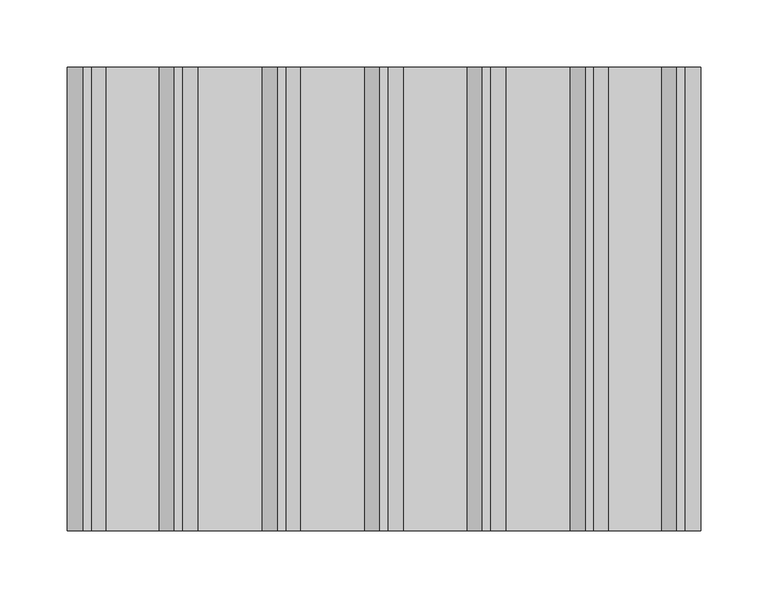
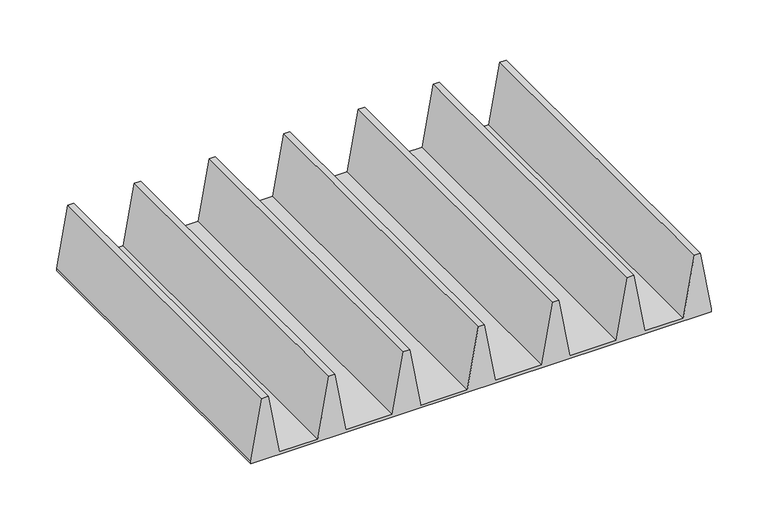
"""IFC4 building model written with IfcOpenShell, lengths in millimetres: furniture geometry."""

from ifc_helpers import new_model, si_unit, frame, origin, place, context, project, spatial, polyline, outline, extrude, source, transform, mapped, element, save


def furniture_a89a9833(model_context):
    return source(origin(), model_context, "Body", "SweptSolid", [
        extrude(outline(polyline([(1012.03252, -234.8826517), (1012.03252, 235.0173483), (1015.0586919, 235.0173483), (1078.70752, 223.7943426), (1078.70752, 217.4443426), (1015.0586919, 206.221337), (1015.0586919, 166.865354), (1078.70752, 155.6423483), (1078.70752, 149.2923483), (1015.0586919, 138.0693426), (1015.0586919, 90.665354), (1078.70752, 79.4423483), (1078.70752, 73.0923483), (1015.0586919, 61.8693426), (1015.0586919, 14.465354), (1078.70752, 3.2423483), (1078.70752, -3.1076517), (1015.0586919, -14.3306574), (1015.0586919, -61.734646), (1078.70752, -72.9576517), (1078.70752, -79.3076517), (1015.0586919, -90.5306574), (1015.0586919, -137.934646), (1078.70752, -149.1576517), (1078.70752, -155.5076517), (1015.0586919, -166.7306574), (1015.0586919, -206.0866403), (1078.70752, -217.309646), (1078.70752, -223.659646), (1015.0586919, -234.8826517), (1012.03252, -234.8826517)])), frame((0.0, -171.831, 0.0), z_axis=(0.0, 1.0, 0.0), x_axis=(0.0, 0.0, 1.0)), (0.0, 0.0, 1.0), 343.662),
    ])


if __name__ == "__main__":
    model = new_model("IFC4")
    model_context = context("Model", 3, world=origin())
    ifc_project = project(units=[si_unit("LENGTHUNIT", "METRE", prefix="MILLI")], contexts=[model_context])
    site = spatial("IfcSite", under=ifc_project)
    building = spatial("IfcBuilding", under=site)
    placement = place(None, origin())
    furniture_shape = furniture_a89a9833(model_context)
    element("IfcFurniture", 1, ObjectType="HermanMiller_CoStruc_CO242_Subdivider Vane : 2 5/8\"Hx13 3/4\"D x 18 1/2\"W", at=placement, inside=building, context=model_context, shape_type="MappedRepresentation", body=[
        mapped(furniture_shape, transform((0.0, 0.0, 0.0), x_axis=(1.0, 0.0, 0.0), y_axis=(0.0, 1.0, 0.0), z_axis=(0.0, 0.0, 1.0))),
    ])
    save(model, "model.ifc")
